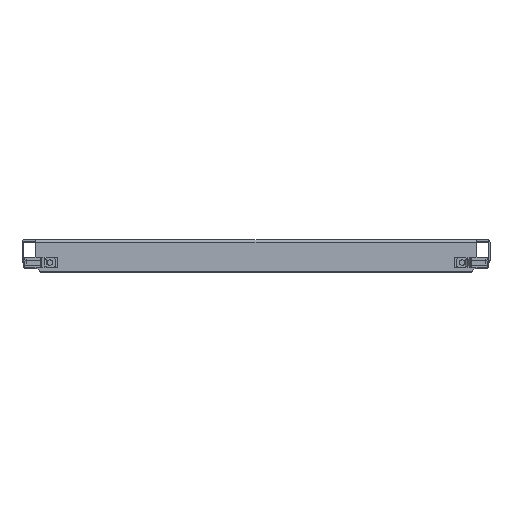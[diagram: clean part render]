
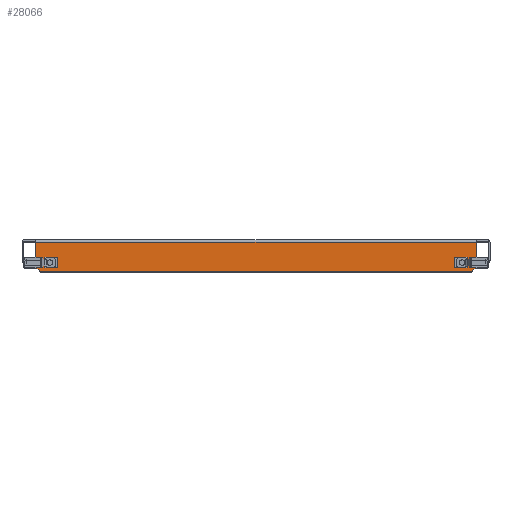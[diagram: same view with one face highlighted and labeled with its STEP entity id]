
A CAD part, top view. The second image highlights one B-rep face of the part: STEP entity #28066.
In plain terms, the highlighted planar face has unit normal (0, 0, 1).
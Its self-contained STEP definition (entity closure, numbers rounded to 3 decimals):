
#24381=CARTESIAN_POINT(' ',(-240.5,-2.6,149.));
#24382=VERTEX_POINT(' ',#24381);
#24396=CARTESIAN_POINT(' ',(-240.5,-2.6,149.));
#24401=DIRECTION(' ',(1.,0.,0.));
#24406=VECTOR(' ',#24401,1.);
#24411=LINE('',#24396,#24406);
#24416=CARTESIAN_POINT(' ',(240.5,-2.6,149.));
#24417=VERTEX_POINT(' ',#24416);
#24421=EDGE_CURVE(' ',#24382,#24417,#24411,.T.);
#25521=CARTESIAN_POINT(' ',(240.5,-30.,149.));
#25526=DIRECTION(' ',(0.,1.,0.));
#25531=VECTOR(' ',#25526,1.);
#25536=LINE('',#25521,#25531);
#25541=CARTESIAN_POINT(' ',(240.5,-30.,149.));
#25542=VERTEX_POINT(' ',#25541);
#25546=EDGE_CURVE(' ',#25542,#24417,#25536,.T.);
#26056=CARTESIAN_POINT(' ',(-240.5,-30.,149.));
#26057=VERTEX_POINT(' ',#26056);
#26071=CARTESIAN_POINT(' ',(-240.5,-2.6,149.));
#26076=DIRECTION(' ',(0.,-1.,0.));
#26081=VECTOR(' ',#26076,1.);
#26086=LINE('',#26071,#26081);
#26091=EDGE_CURVE(' ',#24382,#26057,#26086,.T.);
#27736=DIRECTION(' ',(-0.,0.,1.));
#27741=CARTESIAN_POINT(' ',(-240.5,-35.,149.));
#27746=DIRECTION(' ',(1.,0.,0.));
#27751=AXIS2_PLACEMENT_3D(' ',#27741,#27736,#27746);
#27756=PLANE('NONE',#27751);
#27761=ORIENTED_EDGE(' ',*,*,#26091,.T.);
#27766=CARTESIAN_POINT(' ',(-240.5,-30.,149.));
#27771=DIRECTION(' ',(0.707,-0.707,0.));
#27776=VECTOR(' ',#27771,1.);
#27781=LINE('',#27766,#27776);
#27786=CARTESIAN_POINT(' ',(-235.5,-35.,149.));
#27787=VERTEX_POINT(' ',#27786);
#27791=EDGE_CURVE(' ',#26057,#27787,#27781,.T.);
#27796=ORIENTED_EDGE(' ',*,*,#27791,.T.);
#27801=CARTESIAN_POINT(' ',(-235.5,-35.,149.));
#27806=DIRECTION(' ',(1.,0.,0.));
#27811=VECTOR(' ',#27806,1.);
#27816=LINE('',#27801,#27811);
#27821=CARTESIAN_POINT(' ',(235.5,-35.,149.));
#27822=VERTEX_POINT(' ',#27821);
#27826=EDGE_CURVE(' ',#27787,#27822,#27816,.T.);
#27831=ORIENTED_EDGE(' ',*,*,#27826,.T.);
#27836=CARTESIAN_POINT(' ',(235.5,-35.,149.));
#27841=DIRECTION(' ',(0.707,0.707,0.));
#27846=VECTOR(' ',#27841,1.);
#27851=LINE('',#27836,#27846);
#27856=EDGE_CURVE(' ',#27822,#25542,#27851,.T.);
#27861=ORIENTED_EDGE(' ',*,*,#27856,.T.);
#27866=ORIENTED_EDGE(' ',*,*,#25546,.T.);
#27871=ORIENTED_EDGE(' ',*,*,#24421,.F.);
#27876=EDGE_LOOP(' ',(#27761,#27796,#27831,#27861,#27866,#27871));
#27881=FACE_OUTER_BOUND(' ',#27876,.T.);
#27886=CARTESIAN_POINT(' ',(225.,-25.,149.));
#27891=DIRECTION(' ',(0.,0.,1.));
#27896=DIRECTION(' ',(0.,1.,0.));
#27901=AXIS2_PLACEMENT_3D(' ',#27886,#27891,#27896);
#27906=CIRCLE('',#27901,3.5);
#27911=CARTESIAN_POINT(' ',(225.,-21.5,149.));
#27912=VERTEX_POINT(' ',#27911);
#27916=CARTESIAN_POINT(' ',(225.,-28.5,149.));
#27917=VERTEX_POINT(' ',#27916);
#27921=EDGE_CURVE(' ',#27912,#27917,#27906,.T.);
#27926=ORIENTED_EDGE(' ',*,*,#27921,.F.);
#27931=CARTESIAN_POINT(' ',(225.,-25.,149.));
#27936=DIRECTION(' ',(0.,0.,1.));
#27941=DIRECTION(' ',(0.,-1.,0.));
#27946=AXIS2_PLACEMENT_3D(' ',#27931,#27936,#27941);
#27951=CIRCLE('',#27946,3.5);
#27956=EDGE_CURVE(' ',#27917,#27912,#27951,.T.);
#27961=ORIENTED_EDGE(' ',*,*,#27956,.F.);
#27966=EDGE_LOOP(' ',(#27926,#27961));
#27971=FACE_BOUND(' ',#27966,.T.);
#27976=CARTESIAN_POINT(' ',(-225.,-25.,149.));
#27981=DIRECTION(' ',(0.,0.,1.));
#27986=DIRECTION(' ',(0.,1.,0.));
#27991=AXIS2_PLACEMENT_3D(' ',#27976,#27981,#27986);
#27996=CIRCLE('',#27991,3.5);
#28001=CARTESIAN_POINT(' ',(-225.,-21.5,149.));
#28002=VERTEX_POINT(' ',#28001);
#28006=CARTESIAN_POINT(' ',(-225.,-28.5,149.));
#28007=VERTEX_POINT(' ',#28006);
#28011=EDGE_CURVE(' ',#28002,#28007,#27996,.T.);
#28016=ORIENTED_EDGE(' ',*,*,#28011,.F.);
#28021=CARTESIAN_POINT(' ',(-225.,-25.,149.));
#28026=DIRECTION(' ',(0.,0.,1.));
#28031=DIRECTION(' ',(0.,-1.,0.));
#28036=AXIS2_PLACEMENT_3D(' ',#28021,#28026,#28031);
#28041=CIRCLE('',#28036,3.5);
#28046=EDGE_CURVE(' ',#28007,#28002,#28041,.T.);
#28051=ORIENTED_EDGE(' ',*,*,#28046,.F.);
#28056=EDGE_LOOP(' ',(#28016,#28051));
#28061=FACE_BOUND(' ',#28056,.T.);
#28066=ADVANCED_FACE('NONE',(#27881,#27971,#28061),#27756,.T.);
